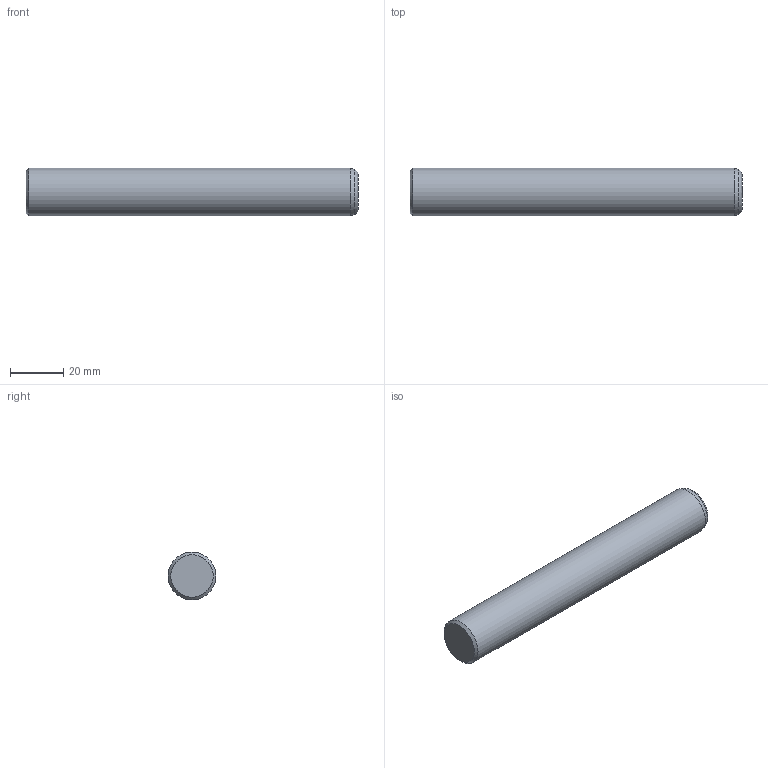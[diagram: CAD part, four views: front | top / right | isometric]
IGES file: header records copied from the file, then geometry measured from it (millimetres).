
Global section: file name: C418125.ipt; native system: Autodesk Inventor 2021; preprocessor: unknown; author: SM; date: 20211220.143010; units: millimetre
Bounding box: 125 x 18 x 18 mm (x, y, z)
Volume: 31680.9 mm3; surface area: 7468.6 mm2
Topology: 1 solids, 1 shells, 6 faces, 11 edges, 7 vertices
Faces by surface type: cone 2, plane 2, revolution 1, cylinder 1
Full cylindrical faces by diameter (mm): 18 x1
